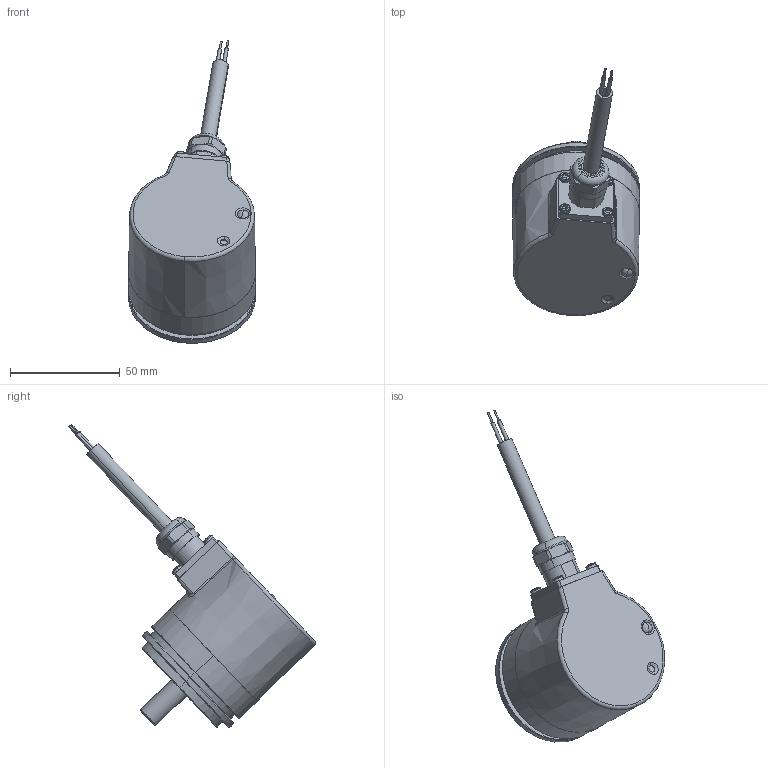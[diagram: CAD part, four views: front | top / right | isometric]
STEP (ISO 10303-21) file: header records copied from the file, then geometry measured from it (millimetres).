
FILE_DESCRIPTION (( 'STEP AP203' ), '1' );
FILE_NAME ('8.F5868.22XA.XXXX.STEP', '2013-03-26T09:26:03', ( 'Hodot' ), ( '' ), 'SwSTEP 2.0', 'SolidWorks 2012', '' );
FILE_SCHEMA (( 'CONFIG_CONTROL_DESIGN' ));
Length unit declared in the file: millimetre
Products named in the file (1): 8.F5868.22XA.XXXX
Bounding box: 58 x 112.7 x 138.21 mm (x, y, z)
Volume: 83998.6 mm3; surface area: 50415.5 mm2
Topology: 13 solids, 13 shells, 789 faces, 1924 edges, 1169 vertices
Faces by surface type: cylinder 257, plane 211, cone 165, torus 90, bspline 36, sphere 30
Entity records: 24737 total; most frequent: CARTESIAN_POINT 6466, DIRECTION 4032, ORIENTED_EDGE 3676, EDGE_CURVE 1838, AXIS2_PLACEMENT_3D 1694, VERTEX_POINT 1139, CIRCLE 940, EDGE_LOOP 893
